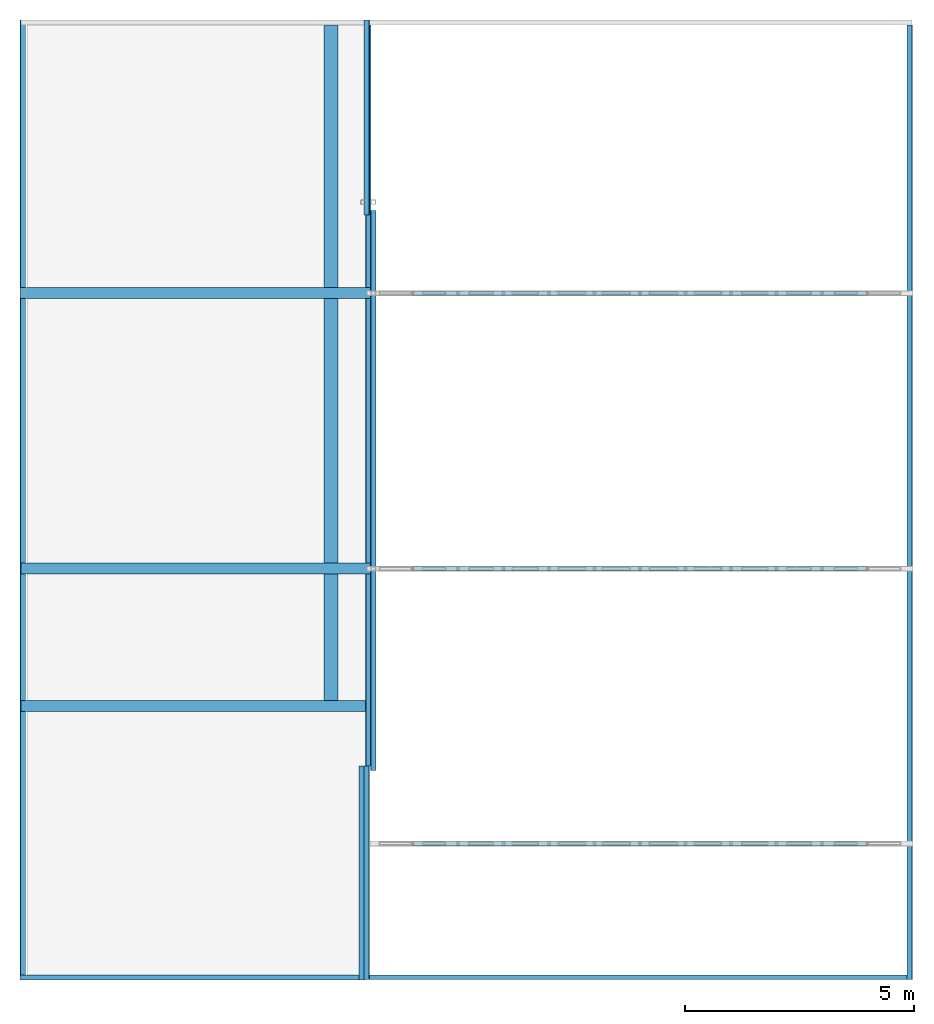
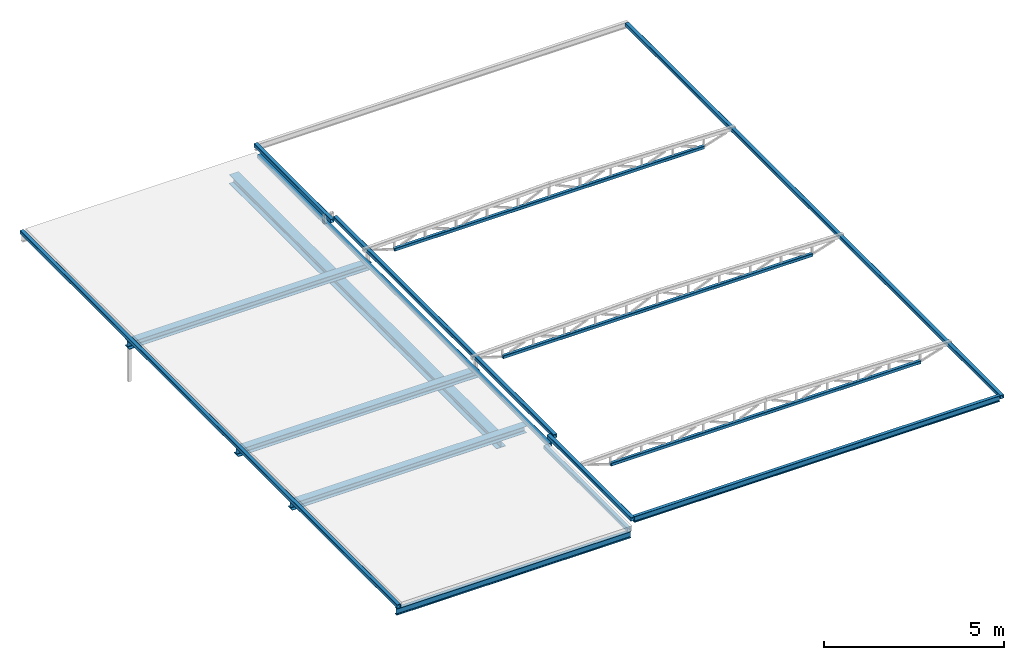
# One storey, part 2 of 12: 16 beams, 3 elements without a shape of their own.
"""IFC2X3 building model written with IfcOpenShell, lengths in millimetres."""

from ifc_helpers import new_model, entity, si_unit, converted_unit, derived_unit, direction, frame, frame_2d, origin, place, context, subcontext, project, spatial, polyline, circle_curve, parameter, trimmed, segment, composite_curve, i_section, outline, extrude, material, type_object, element, aggregate, save


model = new_model("IFC2X3")

# Units and contexts
model_context = context("Model", 3, precision=0.01, world=origin(), true_north=direction((6.12303176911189e-17, 1.0)))
body_context = subcontext(model_context, "Body", "Model", "MODEL_VIEW")
ifc_project = project(units=[si_unit("LENGTHUNIT", "METRE", prefix="MILLI"), si_unit("AREAUNIT", "SQUARE_METRE"), si_unit("VOLUMEUNIT", "CUBIC_METRE"), converted_unit("PLANEANGLEUNIT", "DEGREE", entity("IfcRatioMeasure", 0.0174532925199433), si_unit("PLANEANGLEUNIT", "RADIAN"), dimensions=[0, 0, 0, 0, 0, 0, 0]), si_unit("MASSUNIT", "GRAM", prefix="KILO"), derived_unit("MASSDENSITYUNIT", [(si_unit("MASSUNIT", "GRAM", prefix="KILO"), 1), (si_unit("LENGTHUNIT", "METRE"), -3)]), si_unit("TIMEUNIT", "SECOND"), si_unit("FREQUENCYUNIT", "HERTZ"), si_unit("THERMODYNAMICTEMPERATUREUNIT", "DEGREE_CELSIUS"), derived_unit("THERMALTRANSMITTANCEUNIT", [(si_unit("MASSUNIT", "GRAM", prefix="KILO"), 1), (si_unit("THERMODYNAMICTEMPERATUREUNIT", "KELVIN"), -1), (si_unit("TIMEUNIT", "SECOND"), -3)]), derived_unit("VOLUMETRICFLOWRATEUNIT", [(si_unit("LENGTHUNIT", "METRE"), 3), (si_unit("TIMEUNIT", "SECOND"), -1)]), si_unit("ELECTRICCURRENTUNIT", "AMPERE"), si_unit("ELECTRICVOLTAGEUNIT", "VOLT"), si_unit("POWERUNIT", "WATT"), si_unit("FORCEUNIT", "NEWTON", prefix="KILO"), si_unit("ILLUMINANCEUNIT", "LUX"), si_unit("LUMINOUSFLUXUNIT", "LUMEN"), si_unit("LUMINOUSINTENSITYUNIT", "CANDELA"), derived_unit("USERDEFINED", [(si_unit("MASSUNIT", "GRAM", prefix="KILO"), -1), (si_unit("LENGTHUNIT", "METRE"), -2), (si_unit("TIMEUNIT", "SECOND"), 3), (si_unit("LUMINOUSFLUXUNIT", "LUMEN"), 1)]), derived_unit("LINEARVELOCITYUNIT", [(si_unit("LENGTHUNIT", "METRE"), 1), (si_unit("TIMEUNIT", "SECOND"), -1)]), si_unit("PRESSUREUNIT", "PASCAL"), derived_unit("USERDEFINED", [(si_unit("LENGTHUNIT", "METRE"), -2), (si_unit("MASSUNIT", "GRAM", prefix="KILO"), 1), (si_unit("TIMEUNIT", "SECOND"), -2)])], contexts=[model_context])

# Site, building, storey
site_placement = place(None, frame((0.0, 0.0, 101000.0)))
site = spatial("IfcSite", under=ifc_project, at=site_placement, Name="Default", CompositionType="ELEMENT")
building_placement = place(site_placement, origin())
building = spatial("IfcBuilding", under=site, at=building_placement, CompositionType="ELEMENT")
storey_placement = place(building_placement, frame((0.0, 0.0, 6025.0)))
storey = spatial("IfcBuildingStorey", under=building, at=storey_placement, Name="03", CompositionType="ELEMENT", Elevation=6024.9999999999)

# Beams
ifc_material_1 = material(Name="Stål - S355")
beam_type_1 = type_object("IfcBeamType", Name="Bjelke IPE:IPE 200", PredefinedType="BEAM")
beam_1_placement = place(storey_placement, frame((11321.2644969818, 23497.9507529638, 0.0)))
element("IfcBeam", 1, at=beam_1_placement, inside=storey, type_object=beam_type_1, material=ifc_material_1, Name="Bjelke IPE:IPE 200", ObjectType="Bjelke IPE:IPE 200", context=body_context, shape_type="SweptSolid", body=[
    extrude(i_section(OverallWidth=100.000000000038, OverallDepth=200.0, WebThickness=5.59999999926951, FlangeThickness=8.50000000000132, FilletRadius=12.0000000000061, at=frame_2d((0.0, -2.16715534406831e-12), x_axis=(0.0, 1.0))), frame((0.0, 0.0, -100.0), z_axis=(1.0, 0.0, 0.0), x_axis=(0.0, 0.0, -1.0)), (0.0, 0.0, 1.0), 11730.0),
])
ifc_material_2 = material(Name="S355")
beam_type_2 = type_object("IfcBeamType", Name="Bjelke HUP:HUP 120x120x5", PredefinedType="BEAM")
beam_2_placement = place(storey_placement, frame((23111.2644969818, 44287.9507529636, 0.0), z_axis=(0.0, 0.0, 1.0), x_axis=(0.0, -1.0, 0.0)))
element("IfcBeam", 2, at=beam_2_placement, inside=storey, type_object=beam_type_2, material=ifc_material_2, Name="Bjelke HUP:HUP 120x120x5", ObjectType="Bjelke HUP:HUP 120x120x5", context=body_context, shape_type="SweptSolid", body=[
    extrude(outline(composite_curve([segment(trimmed(circle_curve(frame_2d((-50.0, -50.0), x_axis=(1.0, 0.0)), 10.0), [parameter(180.0)], [parameter(269.999999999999)], True, "PARAMETER"), True, "CONTINUOUS"), segment(polyline([(-50.0, -60.0), (50.0, -60.0)]), True, "CONTINUOUS"), segment(trimmed(circle_curve(frame_2d((50.0, -50.0), x_axis=(1.0, 0.0)), 10.0), [parameter(270.0)], [parameter(5.08888749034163e-14)], True, "PARAMETER"), True, "CONTINUOUS"), segment(polyline([(60.0, -50.0), (60.0, 50.0)]), True, "CONTINUOUS"), segment(trimmed(circle_curve(frame_2d((50.0, 50.0), x_axis=(1.0, 0.0)), 10.0), [parameter(360.0)], [parameter(89.9999999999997)], True, "PARAMETER"), True, "CONTINUOUS"), segment(polyline([(50.0, 60.0), (-50.0, 60.0)]), True, "CONTINUOUS"), segment(trimmed(circle_curve(frame_2d((-50.0, 50.0), x_axis=(1.0, 0.0)), 10.0), [parameter(90.0000000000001)], [parameter(180.0)], True, "PARAMETER"), True, "CONTINUOUS"), segment(polyline([(-60.0, 50.0), (-60.0, -50.0)]), True, "CONTINUOUS")], self_intersect=False), holes=[composite_curve([segment(polyline([(50.0, -55.0), (-50.0, -55.0)]), True, "CONTINUOUS"), segment(trimmed(circle_curve(frame_2d((-50.0, -50.0), x_axis=(1.0, 0.0)), 5.0), [parameter(180.0)], [parameter(270.0)], True, "PARAMETER"), False, "CONTINUOUS"), segment(polyline([(-55.0, -50.0), (-55.0, 50.0)]), True, "CONTINUOUS"), segment(trimmed(circle_curve(frame_2d((-50.0, 50.0), x_axis=(1.0, 0.0)), 5.0), [parameter(90.0000000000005)], [parameter(180.0)], True, "PARAMETER"), False, "CONTINUOUS"), segment(polyline([(-50.0, 55.0), (50.0, 55.0)]), True, "CONTINUOUS"), segment(trimmed(circle_curve(frame_2d((50.0, 50.0), x_axis=(1.0, 0.0)), 5.0), [parameter(0.0)], [parameter(90.0000000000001)], True, "PARAMETER"), False, "CONTINUOUS"), segment(polyline([(55.0, 50.0), (55.0, -50.0)]), True, "CONTINUOUS"), segment(trimmed(circle_curve(frame_2d((50.0, -50.0), x_axis=(1.0, 0.0)), 5.0), [parameter(270.0)], [parameter(3.05333249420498e-13)], True, "PARAMETER"), False, "CONTINUOUS")], self_intersect=False)]), frame((0.0, 0.0, -60.0), z_axis=(1.0, 0.0, 0.0), x_axis=(0.0, -1.0, 0.0)), (0.0, 0.0, 1.0), 20839.9999999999),
])
beam_3_placement = place(storey_placement, frame((11261.2644969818, 28058.4336358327, 0.0), z_axis=(0.0, 0.0, 1.0), x_axis=(0.0, -1.0, 0.0)))
element("IfcBeam", 3, at=beam_3_placement, inside=storey, type_object=beam_type_2, material=ifc_material_2, Name="Bjelke HUP:HUP 120x120x5", ObjectType="Bjelke HUP:HUP 120x120x5", context=body_context, shape_type="SweptSolid", body=[
    extrude(outline(composite_curve([segment(trimmed(circle_curve(frame_2d((-50.0, -50.0), x_axis=(1.0, 0.0)), 10.0), [parameter(180.0)], [parameter(269.999999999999)], True, "PARAMETER"), True, "CONTINUOUS"), segment(polyline([(-50.0, -60.0), (50.0, -60.0)]), True, "CONTINUOUS"), segment(trimmed(circle_curve(frame_2d((50.0, -50.0), x_axis=(1.0, 0.0)), 10.0), [parameter(270.0)], [parameter(5.08888749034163e-14)], True, "PARAMETER"), True, "CONTINUOUS"), segment(polyline([(60.0, -50.0), (60.0, 50.0)]), True, "CONTINUOUS"), segment(trimmed(circle_curve(frame_2d((50.0, 50.0), x_axis=(1.0, 0.0)), 10.0), [parameter(360.0)], [parameter(89.9999999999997)], True, "PARAMETER"), True, "CONTINUOUS"), segment(polyline([(50.0, 60.0), (-50.0, 60.0)]), True, "CONTINUOUS"), segment(trimmed(circle_curve(frame_2d((-50.0, 50.0), x_axis=(1.0, 0.0)), 10.0), [parameter(90.0000000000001)], [parameter(180.0)], True, "PARAMETER"), True, "CONTINUOUS"), segment(polyline([(-60.0, 50.0), (-60.0, -50.0)]), True, "CONTINUOUS")], self_intersect=False), holes=[composite_curve([segment(polyline([(50.0, -55.0), (-50.0, -55.0)]), True, "CONTINUOUS"), segment(trimmed(circle_curve(frame_2d((-50.0, -50.0), x_axis=(1.0, 0.0)), 5.0), [parameter(180.0)], [parameter(270.0)], True, "PARAMETER"), False, "CONTINUOUS"), segment(polyline([(-55.0, -50.0), (-55.0, 50.0)]), True, "CONTINUOUS"), segment(trimmed(circle_curve(frame_2d((-50.0, 50.0), x_axis=(1.0, 0.0)), 5.0), [parameter(90.0000000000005)], [parameter(180.0)], True, "PARAMETER"), False, "CONTINUOUS"), segment(polyline([(-50.0, 55.0), (50.0, 55.0)]), True, "CONTINUOUS"), segment(trimmed(circle_curve(frame_2d((50.0, 50.0), x_axis=(1.0, 0.0)), 5.0), [parameter(0.0)], [parameter(90.0000000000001)], True, "PARAMETER"), False, "CONTINUOUS"), segment(polyline([(55.0, 50.0), (55.0, -50.0)]), True, "CONTINUOUS"), segment(trimmed(circle_curve(frame_2d((50.0, -50.0), x_axis=(1.0, 0.0)), 5.0), [parameter(270.0)], [parameter(3.05333249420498e-13)], True, "PARAMETER"), False, "CONTINUOUS")], self_intersect=False)]), frame((-50.0, 0.0, -60.0), z_axis=(1.0, 0.0, 0.0), x_axis=(0.0, -1.0, 0.0)), (0.0, 0.0, 1.0), 4660.48288286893),
])
beam_4_placement = place(storey_placement, frame((11411.2644969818, 28008.4336358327, 0.0), z_axis=(0.0, 0.0, 1.0), x_axis=(0.0, 1.0, 0.0)))
element("IfcBeam", 4, at=beam_4_placement, inside=storey, type_object=beam_type_2, material=ifc_material_2, Name="Bjelke HUP:HUP 120x120x5", ObjectType="Bjelke HUP:HUP 120x120x5", context=body_context, shape_type="SweptSolid", body=[
    extrude(outline(composite_curve([segment(trimmed(circle_curve(frame_2d((-50.0, -50.0), x_axis=(1.0, 0.0)), 10.0), [parameter(180.0)], [parameter(269.999999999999)], True, "PARAMETER"), True, "CONTINUOUS"), segment(polyline([(-50.0, -60.0), (50.0, -60.0)]), True, "CONTINUOUS"), segment(trimmed(circle_curve(frame_2d((50.0, -50.0), x_axis=(1.0, 0.0)), 10.0), [parameter(270.0)], [parameter(5.08888749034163e-14)], True, "PARAMETER"), True, "CONTINUOUS"), segment(polyline([(60.0, -50.0), (60.0, 50.0)]), True, "CONTINUOUS"), segment(trimmed(circle_curve(frame_2d((50.0, 50.0), x_axis=(1.0, 0.0)), 10.0), [parameter(360.0)], [parameter(89.9999999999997)], True, "PARAMETER"), True, "CONTINUOUS"), segment(polyline([(50.0, 60.0), (-50.0, 60.0)]), True, "CONTINUOUS"), segment(trimmed(circle_curve(frame_2d((-50.0, 50.0), x_axis=(1.0, 0.0)), 10.0), [parameter(90.0000000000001)], [parameter(180.0)], True, "PARAMETER"), True, "CONTINUOUS"), segment(polyline([(-60.0, 50.0), (-60.0, -50.0)]), True, "CONTINUOUS")], self_intersect=False), holes=[composite_curve([segment(polyline([(50.0, -55.0), (-50.0, -55.0)]), True, "CONTINUOUS"), segment(trimmed(circle_curve(frame_2d((-50.0, -50.0), x_axis=(1.0, 0.0)), 5.0), [parameter(180.0)], [parameter(270.0)], True, "PARAMETER"), False, "CONTINUOUS"), segment(polyline([(-55.0, -50.0), (-55.0, 50.0)]), True, "CONTINUOUS"), segment(trimmed(circle_curve(frame_2d((-50.0, 50.0), x_axis=(1.0, 0.0)), 5.0), [parameter(90.0000000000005)], [parameter(180.0)], True, "PARAMETER"), False, "CONTINUOUS"), segment(polyline([(-50.0, 55.0), (50.0, 55.0)]), True, "CONTINUOUS"), segment(trimmed(circle_curve(frame_2d((50.0, 50.0), x_axis=(1.0, 0.0)), 5.0), [parameter(0.0)], [parameter(90.0000000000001)], True, "PARAMETER"), False, "CONTINUOUS"), segment(polyline([(55.0, 50.0), (55.0, -50.0)]), True, "CONTINUOUS"), segment(trimmed(circle_curve(frame_2d((50.0, -50.0), x_axis=(1.0, 0.0)), 5.0), [parameter(270.0)], [parameter(3.05333249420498e-13)], True, "PARAMETER"), False, "CONTINUOUS")], self_intersect=False)]), frame((0.0, 0.0, -60.0), z_axis=(1.0, 0.0, 0.0), x_axis=(0.0, -1.0, 0.0)), (0.0, 0.0, 1.0), 12223.5586234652),
])
beam_5_placement = place(storey_placement, frame((11260.9045409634, 40131.9922592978, 0.0), z_axis=(0.0, 0.0, 1.0), x_axis=(0.0, 1.0, 0.0)))
element("IfcBeam", 5, at=beam_5_placement, inside=storey, type_object=beam_type_2, material=ifc_material_2, Name="Bjelke HUP:HUP 120x120x5", ObjectType="Bjelke HUP:HUP 120x120x5", context=body_context, shape_type="SweptSolid", body=[
    extrude(outline(composite_curve([segment(trimmed(circle_curve(frame_2d((-50.0, -50.0), x_axis=(1.0, 0.0)), 10.0), [parameter(180.0)], [parameter(269.999999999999)], True, "PARAMETER"), True, "CONTINUOUS"), segment(polyline([(-50.0, -60.0), (50.0, -60.0)]), True, "CONTINUOUS"), segment(trimmed(circle_curve(frame_2d((50.0, -50.0), x_axis=(1.0, 0.0)), 10.0), [parameter(270.0)], [parameter(5.08888749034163e-14)], True, "PARAMETER"), True, "CONTINUOUS"), segment(polyline([(60.0, -50.0), (60.0, 50.0)]), True, "CONTINUOUS"), segment(trimmed(circle_curve(frame_2d((50.0, 50.0), x_axis=(1.0, 0.0)), 10.0), [parameter(360.0)], [parameter(89.9999999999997)], True, "PARAMETER"), True, "CONTINUOUS"), segment(polyline([(50.0, 60.0), (-50.0, 60.0)]), True, "CONTINUOUS"), segment(trimmed(circle_curve(frame_2d((-50.0, 50.0), x_axis=(1.0, 0.0)), 10.0), [parameter(90.0000000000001)], [parameter(180.0)], True, "PARAMETER"), True, "CONTINUOUS"), segment(polyline([(-60.0, 50.0), (-60.0, -50.0)]), True, "CONTINUOUS")], self_intersect=False), holes=[composite_curve([segment(polyline([(50.0, -55.0), (-50.0, -55.0)]), True, "CONTINUOUS"), segment(trimmed(circle_curve(frame_2d((-50.0, -50.0), x_axis=(1.0, 0.0)), 5.0), [parameter(180.0)], [parameter(270.0)], True, "PARAMETER"), False, "CONTINUOUS"), segment(polyline([(-55.0, -50.0), (-55.0, 50.0)]), True, "CONTINUOUS"), segment(trimmed(circle_curve(frame_2d((-50.0, 50.0), x_axis=(1.0, 0.0)), 5.0), [parameter(90.0000000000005)], [parameter(180.0)], True, "PARAMETER"), False, "CONTINUOUS"), segment(polyline([(-50.0, 55.0), (50.0, 55.0)]), True, "CONTINUOUS"), segment(trimmed(circle_curve(frame_2d((50.0, 50.0), x_axis=(1.0, 0.0)), 5.0), [parameter(0.0)], [parameter(90.0000000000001)], True, "PARAMETER"), False, "CONTINUOUS"), segment(polyline([(55.0, 50.0), (55.0, -50.0)]), True, "CONTINUOUS"), segment(trimmed(circle_curve(frame_2d((50.0, -50.0), x_axis=(1.0, 0.0)), 5.0), [parameter(270.0)], [parameter(3.05333249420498e-13)], True, "PARAMETER"), False, "CONTINUOUS")], self_intersect=False)]), frame((0.0, 0.0, -60.0), z_axis=(1.0, 0.0, 0.0), x_axis=(0.0, -1.0, 0.0)), (0.0, 0.0, 1.0), 4260.95849366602),
])
beam_6_placement = place(storey_placement, frame((3761.2644969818, 23442.9507529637, -445.0), z_axis=(0.0, 0.0, 1.0), x_axis=(0.0, 1.0, 0.0)))
element("IfcBeam", 6, at=beam_6_placement, inside=storey, type_object=beam_type_2, material=ifc_material_2, Name="Bjelke HUP:HUP 120x120x5", ObjectType="Bjelke HUP:HUP 120x120x5", context=body_context, shape_type="SweptSolid", body=[
    extrude(outline(composite_curve([segment(trimmed(circle_curve(frame_2d((-50.0, -50.0), x_axis=(1.0, 0.0)), 10.0), [parameter(180.0)], [parameter(269.999999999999)], True, "PARAMETER"), True, "CONTINUOUS"), segment(polyline([(-50.0, -60.0), (50.0, -60.0)]), True, "CONTINUOUS"), segment(trimmed(circle_curve(frame_2d((50.0, -50.0), x_axis=(1.0, 0.0)), 10.0), [parameter(270.0)], [parameter(5.08888749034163e-14)], True, "PARAMETER"), True, "CONTINUOUS"), segment(polyline([(60.0, -50.0), (60.0, 50.0)]), True, "CONTINUOUS"), segment(trimmed(circle_curve(frame_2d((50.0, 50.0), x_axis=(1.0, 0.0)), 10.0), [parameter(360.0)], [parameter(89.9999999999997)], True, "PARAMETER"), True, "CONTINUOUS"), segment(polyline([(50.0, 60.0), (-50.0, 60.0)]), True, "CONTINUOUS"), segment(trimmed(circle_curve(frame_2d((-50.0, 50.0), x_axis=(1.0, 0.0)), 10.0), [parameter(90.0000000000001)], [parameter(180.0)], True, "PARAMETER"), True, "CONTINUOUS"), segment(polyline([(-60.0, 50.0), (-60.0, -50.0)]), True, "CONTINUOUS")], self_intersect=False), holes=[composite_curve([segment(polyline([(50.0, -55.0), (-50.0, -55.0)]), True, "CONTINUOUS"), segment(trimmed(circle_curve(frame_2d((-50.0, -50.0), x_axis=(1.0, 0.0)), 5.0), [parameter(180.0)], [parameter(270.0)], True, "PARAMETER"), False, "CONTINUOUS"), segment(polyline([(-55.0, -50.0), (-55.0, 50.0)]), True, "CONTINUOUS"), segment(trimmed(circle_curve(frame_2d((-50.0, 50.0), x_axis=(1.0, 0.0)), 5.0), [parameter(90.0000000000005)], [parameter(180.0)], True, "PARAMETER"), False, "CONTINUOUS"), segment(polyline([(-50.0, 55.0), (50.0, 55.0)]), True, "CONTINUOUS"), segment(trimmed(circle_curve(frame_2d((50.0, 50.0), x_axis=(1.0, 0.0)), 5.0), [parameter(0.0)], [parameter(90.0000000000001)], True, "PARAMETER"), False, "CONTINUOUS"), segment(polyline([(55.0, 50.0), (55.0, -50.0)]), True, "CONTINUOUS"), segment(trimmed(circle_curve(frame_2d((50.0, -50.0), x_axis=(1.0, 0.0)), 5.0), [parameter(270.0)], [parameter(3.05333249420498e-13)], True, "PARAMETER"), False, "CONTINUOUS")], self_intersect=False)]), frame((0.0, 0.0, 60.0), z_axis=(1.0, 0.0, 0.0), x_axis=(0.0, -1.0, 0.0)), (0.0, 0.0, 1.0), 20950.0),
])
beam_7_placement = place(storey_placement, frame((11301.2644969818, 28058.4336358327, 0.0), z_axis=(0.0, 0.0, 1.0), x_axis=(0.0, 1.0, 0.0)))
element("IfcBeam", 7, at=beam_7_placement, inside=storey, type_object=beam_type_2, material=ifc_material_2, Name="Bjelke HUP:HUP 120x120x5", ObjectType="Bjelke HUP:HUP 120x120x5", context=body_context, shape_type="SweptSolid", body=[
    extrude(outline(composite_curve([segment(trimmed(circle_curve(frame_2d((-50.0, -50.0), x_axis=(1.0, 0.0)), 10.0), [parameter(180.0)], [parameter(269.999999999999)], True, "PARAMETER"), True, "CONTINUOUS"), segment(polyline([(-50.0, -60.0), (50.0, -60.0)]), True, "CONTINUOUS"), segment(trimmed(circle_curve(frame_2d((50.0, -50.0), x_axis=(1.0, 0.0)), 10.0), [parameter(270.0)], [parameter(5.08888749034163e-14)], True, "PARAMETER"), True, "CONTINUOUS"), segment(polyline([(60.0, -50.0), (60.0, 50.0)]), True, "CONTINUOUS"), segment(trimmed(circle_curve(frame_2d((50.0, 50.0), x_axis=(1.0, 0.0)), 10.0), [parameter(360.0)], [parameter(89.9999999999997)], True, "PARAMETER"), True, "CONTINUOUS"), segment(polyline([(50.0, 60.0), (-50.0, 60.0)]), True, "CONTINUOUS"), segment(trimmed(circle_curve(frame_2d((-50.0, 50.0), x_axis=(1.0, 0.0)), 10.0), [parameter(90.0000000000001)], [parameter(180.0)], True, "PARAMETER"), True, "CONTINUOUS"), segment(polyline([(-60.0, 50.0), (-60.0, -50.0)]), True, "CONTINUOUS")], self_intersect=False), holes=[composite_curve([segment(polyline([(50.0, -55.0), (-50.0, -55.0)]), True, "CONTINUOUS"), segment(trimmed(circle_curve(frame_2d((-50.0, -50.0), x_axis=(1.0, 0.0)), 5.0), [parameter(180.0)], [parameter(270.0)], True, "PARAMETER"), False, "CONTINUOUS"), segment(polyline([(-55.0, -50.0), (-55.0, 50.0)]), True, "CONTINUOUS"), segment(trimmed(circle_curve(frame_2d((-50.0, 50.0), x_axis=(1.0, 0.0)), 5.0), [parameter(90.0000000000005)], [parameter(180.0)], True, "PARAMETER"), False, "CONTINUOUS"), segment(polyline([(-50.0, 55.0), (50.0, 55.0)]), True, "CONTINUOUS"), segment(trimmed(circle_curve(frame_2d((50.0, 50.0), x_axis=(1.0, 0.0)), 5.0), [parameter(0.0)], [parameter(90.0000000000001)], True, "PARAMETER"), False, "CONTINUOUS"), segment(polyline([(55.0, 50.0), (55.0, -50.0)]), True, "CONTINUOUS"), segment(trimmed(circle_curve(frame_2d((50.0, -50.0), x_axis=(1.0, 0.0)), 5.0), [parameter(270.0)], [parameter(3.05333249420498e-13)], True, "PARAMETER"), False, "CONTINUOUS")], self_intersect=False)]), frame((50.0, 0.0, -385.0), z_axis=(1.0, 0.0, 0.0), x_axis=(0.0, -1.0, 0.0)), (0.0, 0.0, 1.0), 16179.7882891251),
])
beam_8_placement = place(storey_placement, frame((11151.2644969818, 28108.4336358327, 0.0), z_axis=(0.0, 0.0, 1.0), x_axis=(0.0, -1.0, 0.0)))
element("IfcBeam", 8, at=beam_8_placement, inside=storey, type_object=beam_type_2, material=ifc_material_2, Name="Bjelke HUP:HUP 120x120x5", ObjectType="Bjelke HUP:HUP 120x120x5", context=body_context, shape_type="SweptSolid", body=[
    extrude(outline(composite_curve([segment(trimmed(circle_curve(frame_2d((-50.0, -50.0), x_axis=(1.0, 0.0)), 10.0), [parameter(180.0)], [parameter(269.999999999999)], True, "PARAMETER"), True, "CONTINUOUS"), segment(polyline([(-50.0, -60.0), (50.0, -60.0)]), True, "CONTINUOUS"), segment(trimmed(circle_curve(frame_2d((50.0, -50.0), x_axis=(1.0, 0.0)), 10.0), [parameter(270.0)], [parameter(5.08888749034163e-14)], True, "PARAMETER"), True, "CONTINUOUS"), segment(polyline([(60.0, -50.0), (60.0, 50.0)]), True, "CONTINUOUS"), segment(trimmed(circle_curve(frame_2d((50.0, 50.0), x_axis=(1.0, 0.0)), 10.0), [parameter(360.0)], [parameter(89.9999999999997)], True, "PARAMETER"), True, "CONTINUOUS"), segment(polyline([(50.0, 60.0), (-50.0, 60.0)]), True, "CONTINUOUS"), segment(trimmed(circle_curve(frame_2d((-50.0, 50.0), x_axis=(1.0, 0.0)), 10.0), [parameter(90.0000000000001)], [parameter(180.0)], True, "PARAMETER"), True, "CONTINUOUS"), segment(polyline([(-60.0, 50.0), (-60.0, -50.0)]), True, "CONTINUOUS")], self_intersect=False), holes=[composite_curve([segment(polyline([(50.0, -55.0), (-50.0, -55.0)]), True, "CONTINUOUS"), segment(trimmed(circle_curve(frame_2d((-50.0, -50.0), x_axis=(1.0, 0.0)), 5.0), [parameter(180.0)], [parameter(270.0)], True, "PARAMETER"), False, "CONTINUOUS"), segment(polyline([(-55.0, -50.0), (-55.0, 50.0)]), True, "CONTINUOUS"), segment(trimmed(circle_curve(frame_2d((-50.0, 50.0), x_axis=(1.0, 0.0)), 5.0), [parameter(90.0000000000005)], [parameter(180.0)], True, "PARAMETER"), False, "CONTINUOUS"), segment(polyline([(-50.0, 55.0), (50.0, 55.0)]), True, "CONTINUOUS"), segment(trimmed(circle_curve(frame_2d((50.0, 50.0), x_axis=(1.0, 0.0)), 5.0), [parameter(0.0)], [parameter(90.0000000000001)], True, "PARAMETER"), False, "CONTINUOUS"), segment(polyline([(55.0, 50.0), (55.0, -50.0)]), True, "CONTINUOUS"), segment(trimmed(circle_curve(frame_2d((50.0, -50.0), x_axis=(1.0, 0.0)), 5.0), [parameter(270.0)], [parameter(3.05333249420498e-13)], True, "PARAMETER"), False, "CONTINUOUS")], self_intersect=False)]), frame((0.0, 0.0, -385.0), z_axis=(1.0, 0.0, 0.0), x_axis=(0.0, -1.0, 0.0)), (0.0, 0.0, 1.0), 4665.48288286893),
])
beam_type_3 = type_object("IfcBeamType", Name="Bjelke HE:HE 320 A", PredefinedType="BEAM")
beam_9_placement = place(storey_placement, frame((10486.2644969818, 29417.9507529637, -985.0), z_axis=(0.0, 0.0, 1.0), x_axis=(0.0, 1.0, 0.0)))
element("IfcBeam", 9, at=beam_9_placement, inside=storey, type_object=beam_type_3, material=ifc_material_1, Name="Bjelke HE:HE 320 A", ObjectType="Bjelke HE:HE 320 A", context=body_context, shape_type="SweptSolid", body=[
    extrude(i_section(OverallWidth=300.000000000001, OverallDepth=310.0, WebThickness=9.00000000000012, FlangeThickness=15.5000000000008, FilletRadius=27.0000000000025, at=frame_2d((5.54223333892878e-13, 1.08002495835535e-12), x_axis=(0.0, 1.0))), frame((0.0, 0.0, 155.0), z_axis=(1.0, 0.0, 0.0), x_axis=(0.0, 0.0, -1.0)), (0.0, 0.0, 1.0), 14850.0),
])
beam_type_4 = type_object("IfcBeamType", Name="Bjelke HE:HE 240 A", PredefinedType="BEAM")
beam_10_placement = place(storey_placement, frame((3786.26449698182, 38432.9507529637, -675.0)))
element("IfcBeam", 10, at=beam_10_placement, inside=storey, type_object=beam_type_4, material=ifc_material_1, Name="Bjelke HE:HE 240 A", ObjectType="Bjelke HE:HE 240 A", context=body_context, shape_type="SweptSolid", body=[
    extrude(i_section(OverallWidth=240.000000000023, OverallDepth=230.0, WebThickness=7.49999999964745, FlangeThickness=12.0000000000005, FilletRadius=21.0000000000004, at=frame_2d((0.0, 6.50146603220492e-12), x_axis=(0.0, 1.0))), frame((-90.0, 0.0, 115.0), z_axis=(1.0, 0.0, 0.0), x_axis=(0.0, 0.0, -1.0)), (0.0, 0.0, 1.0), 7774.99999999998),
])
beam_11_placement = place(storey_placement, frame((3786.26449698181, 32417.9507529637, -675.0)))
element("IfcBeam", 11, at=beam_11_placement, inside=storey, type_object=beam_type_4, material=ifc_material_1, Name="Bjelke HE:HE 240 A", ObjectType="Bjelke HE:HE 240 A", context=body_context, shape_type="SweptSolid", body=[
    extrude(i_section(OverallWidth=240.000000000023, OverallDepth=230.0, WebThickness=7.49999999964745, FlangeThickness=12.0000000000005, FilletRadius=21.0000000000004, at=frame_2d((0.0, 6.50146603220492e-12), x_axis=(0.0, 1.0))), frame((-65.0, 0.0, 115.0), z_axis=(1.0, 0.0, 0.0), x_axis=(0.0, 0.0, -1.0)), (0.0, 0.0, 1.0), 7749.99999999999),
])
beam_12_placement = place(storey_placement, frame((3786.2644969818, 29417.9507529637, -675.0)))
element("IfcBeam", 12, at=beam_12_placement, inside=storey, type_object=beam_type_4, material=ifc_material_1, Name="Bjelke HE:HE 240 A", ObjectType="Bjelke HE:HE 240 A", context=body_context, shape_type="SweptSolid", body=[
    extrude(i_section(OverallWidth=240.000000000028, OverallDepth=230.0, WebThickness=7.49999999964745, FlangeThickness=12.0000000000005, FilletRadius=21.0000000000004, at=frame_2d((0.0, 6.50146603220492e-12), x_axis=(0.0, 1.0))), frame((-65.0, 0.0, 115.0), z_axis=(1.0, 0.0, 0.0), x_axis=(0.0, 0.0, -1.0)), (0.0, 0.0, 1.0), 7519.81191520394),
])
beam_type_5 = type_object("IfcBeamType", Name="Bjelke IPE:IPE 220", PredefinedType="BEAM")
beam_13_placement = place(storey_placement, frame((3786.26449698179, 23497.9507529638, -675.0)))
element("IfcBeam", 13, at=beam_13_placement, inside=storey, type_object=beam_type_5, material=ifc_material_1, Name="Bjelke IPE:IPE 220", ObjectType="Bjelke IPE:IPE 220", context=body_context, shape_type="SweptSolid", body=[
    extrude(i_section(OverallWidth=110.000000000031, OverallDepth=220.0, WebThickness=5.59999999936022, FlangeThickness=8.50000000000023, FilletRadius=12.0000000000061, at=frame_2d((0.0, 4.33075797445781e-12), x_axis=(0.0, 1.0))), frame((-90.0, 0.0, 110.0), z_axis=(1.0, 0.0, 0.0), x_axis=(0.0, 0.0, -1.0)), (0.0, 0.0, 1.0), 7514.99999999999),
])

# Assembly, beam
assembly_1_placement = place(storey_placement, origin())
assembly_1 = element("IfcElementAssembly", 14, at=assembly_1_placement, inside=storey, Name="Gitterdrager:Standard", ObjectType="Gitterdrager:Standard", AssemblyPlace="NOTDEFINED", PredefinedType="TRUSS")
beam_type_6 = type_object("IfcBeamType", Name="Bjelke HUP:HUP 100x100x5", PredefinedType="BEAM")
beam_14_placement = place(assembly_1_placement, frame((12259.5978303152, 26417.9507529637, -341.023754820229)))
beam_14 = element("IfcBeam", 15, at=beam_14_placement, type_object=beam_type_6, Name="Bjelke HUP:HUP 100x100x5", ObjectType="Bjelke HUP:HUP 100x100x5", context=body_context, shape_type="SweptSolid", body=[
    extrude(outline(composite_curve([segment(trimmed(circle_curve(frame_2d((-40.0, -40.0), x_axis=(1.0, 0.0)), 10.0), [parameter(180.0)], [parameter(269.999999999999)], True, "PARAMETER"), True, "CONTINUOUS"), segment(polyline([(-40.0, -50.0), (40.0, -50.0)]), True, "CONTINUOUS"), segment(trimmed(circle_curve(frame_2d((40.0, -40.0), x_axis=(1.0, 0.0)), 10.0), [parameter(270.0)], [parameter(5.08888749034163e-14)], True, "PARAMETER"), True, "CONTINUOUS"), segment(polyline([(50.0, -40.0), (50.0, 40.0)]), True, "CONTINUOUS"), segment(trimmed(circle_curve(frame_2d((40.0, 40.0), x_axis=(1.0, 0.0)), 10.0), [parameter(360.0)], [parameter(89.9999999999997)], True, "PARAMETER"), True, "CONTINUOUS"), segment(polyline([(40.0, 50.0), (-40.0, 50.0)]), True, "CONTINUOUS"), segment(trimmed(circle_curve(frame_2d((-40.0, 40.0), x_axis=(1.0, 0.0)), 10.0), [parameter(90.0000000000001)], [parameter(180.0)], True, "PARAMETER"), True, "CONTINUOUS"), segment(polyline([(-50.0, 40.0), (-50.0, -40.0)]), True, "CONTINUOUS")], self_intersect=False), holes=[composite_curve([segment(polyline([(40.0, -45.0), (-40.0, -45.0)]), True, "CONTINUOUS"), segment(trimmed(circle_curve(frame_2d((-40.0, -40.0), x_axis=(1.0, 0.0)), 5.0), [parameter(180.0)], [parameter(270.0)], True, "PARAMETER"), False, "CONTINUOUS"), segment(polyline([(-45.0, -40.0), (-45.0, 40.0)]), True, "CONTINUOUS"), segment(trimmed(circle_curve(frame_2d((-40.0, 40.0), x_axis=(1.0, 0.0)), 5.0), [parameter(90.0000000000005)], [parameter(180.0)], True, "PARAMETER"), False, "CONTINUOUS"), segment(polyline([(-40.0, 45.0), (40.0, 45.0)]), True, "CONTINUOUS"), segment(trimmed(circle_curve(frame_2d((40.0, 40.0), x_axis=(1.0, 0.0)), 5.0), [parameter(0.0)], [parameter(90.0000000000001)], True, "PARAMETER"), False, "CONTINUOUS"), segment(polyline([(45.0, 40.0), (45.0, -40.0)]), True, "CONTINUOUS"), segment(trimmed(circle_curve(frame_2d((40.0, -40.0), x_axis=(1.0, 0.0)), 5.0), [parameter(270.0)], [parameter(5.08888749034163e-13)], True, "PARAMETER"), False, "CONTINUOUS")], self_intersect=False)]), frame((0.0, 0.0, 0.0), z_axis=(1.0, 0.0, 0.0), x_axis=(0.0, -1.0, 0.0)), (0.0, 0.0, 1.0), 9933.33333333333),
])
aggregate(assembly_1, [beam_14])

assembly_2_placement = place(storey_placement, origin())
assembly_2 = element("IfcElementAssembly", 16, at=assembly_2_placement, inside=storey, Name="Gitterdrager:Standard", ObjectType="Gitterdrager:Standard", AssemblyPlace="NOTDEFINED", PredefinedType="TRUSS")
beam_15_placement = place(assembly_2_placement, frame((12259.5978303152, 32417.9507529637, -341.023754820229)))
beam_15 = element("IfcBeam", 17, at=beam_15_placement, type_object=beam_type_6, Name="Bjelke HUP:HUP 100x100x5", ObjectType="Bjelke HUP:HUP 100x100x5", context=body_context, shape_type="SweptSolid", body=[
    extrude(outline(composite_curve([segment(trimmed(circle_curve(frame_2d((-40.0, -40.0), x_axis=(1.0, 0.0)), 10.0), [parameter(180.0)], [parameter(269.999999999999)], True, "PARAMETER"), True, "CONTINUOUS"), segment(polyline([(-40.0, -50.0), (40.0, -50.0)]), True, "CONTINUOUS"), segment(trimmed(circle_curve(frame_2d((40.0, -40.0), x_axis=(1.0, 0.0)), 10.0), [parameter(270.0)], [parameter(5.08888749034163e-14)], True, "PARAMETER"), True, "CONTINUOUS"), segment(polyline([(50.0, -40.0), (50.0, 40.0)]), True, "CONTINUOUS"), segment(trimmed(circle_curve(frame_2d((40.0, 40.0), x_axis=(1.0, 0.0)), 10.0), [parameter(360.0)], [parameter(89.9999999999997)], True, "PARAMETER"), True, "CONTINUOUS"), segment(polyline([(40.0, 50.0), (-40.0, 50.0)]), True, "CONTINUOUS"), segment(trimmed(circle_curve(frame_2d((-40.0, 40.0), x_axis=(1.0, 0.0)), 10.0), [parameter(90.0000000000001)], [parameter(180.0)], True, "PARAMETER"), True, "CONTINUOUS"), segment(polyline([(-50.0, 40.0), (-50.0, -40.0)]), True, "CONTINUOUS")], self_intersect=False), holes=[composite_curve([segment(polyline([(40.0, -45.0), (-40.0, -45.0)]), True, "CONTINUOUS"), segment(trimmed(circle_curve(frame_2d((-40.0, -40.0), x_axis=(1.0, 0.0)), 5.0), [parameter(180.0)], [parameter(270.0)], True, "PARAMETER"), False, "CONTINUOUS"), segment(polyline([(-45.0, -40.0), (-45.0, 40.0)]), True, "CONTINUOUS"), segment(trimmed(circle_curve(frame_2d((-40.0, 40.0), x_axis=(1.0, 0.0)), 5.0), [parameter(90.0000000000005)], [parameter(180.0)], True, "PARAMETER"), False, "CONTINUOUS"), segment(polyline([(-40.0, 45.0), (40.0, 45.0)]), True, "CONTINUOUS"), segment(trimmed(circle_curve(frame_2d((40.0, 40.0), x_axis=(1.0, 0.0)), 5.0), [parameter(0.0)], [parameter(90.0000000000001)], True, "PARAMETER"), False, "CONTINUOUS"), segment(polyline([(45.0, 40.0), (45.0, -40.0)]), True, "CONTINUOUS"), segment(trimmed(circle_curve(frame_2d((40.0, -40.0), x_axis=(1.0, 0.0)), 5.0), [parameter(270.0)], [parameter(5.08888749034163e-13)], True, "PARAMETER"), False, "CONTINUOUS")], self_intersect=False)]), frame((0.0, 0.0, 0.0), z_axis=(1.0, 0.0, 0.0), x_axis=(0.0, -1.0, 0.0)), (0.0, 0.0, 1.0), 9933.33333333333),
])
aggregate(assembly_2, [beam_15])

assembly_3_placement = place(storey_placement, origin())
assembly_3 = element("IfcElementAssembly", 18, at=assembly_3_placement, inside=storey, Name="Gitterdrager:Standard", ObjectType="Gitterdrager:Standard", AssemblyPlace="NOTDEFINED", PredefinedType="TRUSS")
beam_16_placement = place(assembly_3_placement, frame((12259.5978303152, 38432.1864743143, -341.023754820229)))
beam_16 = element("IfcBeam", 19, at=beam_16_placement, type_object=beam_type_6, Name="Bjelke HUP:HUP 100x100x5", ObjectType="Bjelke HUP:HUP 100x100x5", context=body_context, shape_type="SweptSolid", body=[
    extrude(outline(composite_curve([segment(trimmed(circle_curve(frame_2d((-40.0, -40.0), x_axis=(1.0, 0.0)), 10.0), [parameter(180.0)], [parameter(269.999999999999)], True, "PARAMETER"), True, "CONTINUOUS"), segment(polyline([(-40.0, -50.0), (40.0, -50.0)]), True, "CONTINUOUS"), segment(trimmed(circle_curve(frame_2d((40.0, -40.0), x_axis=(1.0, 0.0)), 10.0), [parameter(270.0)], [parameter(5.08888749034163e-14)], True, "PARAMETER"), True, "CONTINUOUS"), segment(polyline([(50.0, -40.0), (50.0, 40.0)]), True, "CONTINUOUS"), segment(trimmed(circle_curve(frame_2d((40.0, 40.0), x_axis=(1.0, 0.0)), 10.0), [parameter(360.0)], [parameter(89.9999999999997)], True, "PARAMETER"), True, "CONTINUOUS"), segment(polyline([(40.0, 50.0), (-40.0, 50.0)]), True, "CONTINUOUS"), segment(trimmed(circle_curve(frame_2d((-40.0, 40.0), x_axis=(1.0, 0.0)), 10.0), [parameter(90.0000000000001)], [parameter(180.0)], True, "PARAMETER"), True, "CONTINUOUS"), segment(polyline([(-50.0, 40.0), (-50.0, -40.0)]), True, "CONTINUOUS")], self_intersect=False), holes=[composite_curve([segment(polyline([(40.0, -45.0), (-40.0, -45.0)]), True, "CONTINUOUS"), segment(trimmed(circle_curve(frame_2d((-40.0, -40.0), x_axis=(1.0, 0.0)), 5.0), [parameter(180.0)], [parameter(270.0)], True, "PARAMETER"), False, "CONTINUOUS"), segment(polyline([(-45.0, -40.0), (-45.0, 40.0)]), True, "CONTINUOUS"), segment(trimmed(circle_curve(frame_2d((-40.0, 40.0), x_axis=(1.0, 0.0)), 5.0), [parameter(90.0000000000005)], [parameter(180.0)], True, "PARAMETER"), False, "CONTINUOUS"), segment(polyline([(-40.0, 45.0), (40.0, 45.0)]), True, "CONTINUOUS"), segment(trimmed(circle_curve(frame_2d((40.0, 40.0), x_axis=(1.0, 0.0)), 5.0), [parameter(0.0)], [parameter(90.0000000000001)], True, "PARAMETER"), False, "CONTINUOUS"), segment(polyline([(45.0, 40.0), (45.0, -40.0)]), True, "CONTINUOUS"), segment(trimmed(circle_curve(frame_2d((40.0, -40.0), x_axis=(1.0, 0.0)), 5.0), [parameter(270.0)], [parameter(5.08888749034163e-13)], True, "PARAMETER"), False, "CONTINUOUS")], self_intersect=False)]), frame((0.0, 0.0, 0.0), z_axis=(1.0, 0.0, 0.0), x_axis=(0.0, -1.0, 0.0)), (0.0, 0.0, 1.0), 9933.33333333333),
])
aggregate(assembly_3, [beam_16])

save(model, "model.ifc")
